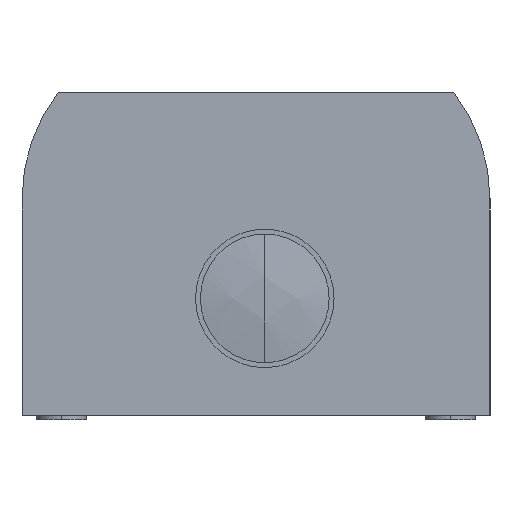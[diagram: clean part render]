
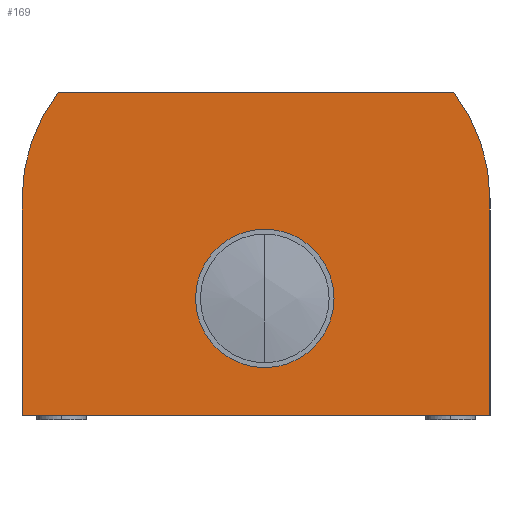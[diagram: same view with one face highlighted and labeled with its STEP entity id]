
A CAD part, left-side view. The second image highlights one B-rep face of the part: STEP entity #169.
In plain terms, the highlighted planar face has unit normal (-1, 0, 0).
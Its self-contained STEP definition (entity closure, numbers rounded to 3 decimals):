
#169 = ADVANCED_FACE( '', ( #384, #385 ), #386, .F. );
#384 = FACE_BOUND( '', #602, .T. );
#385 = FACE_OUTER_BOUND( '', #603, .T. );
#386 = PLANE( '', #604 );
#602 = EDGE_LOOP( '', ( #1298, #1299 ) );
#603 = EDGE_LOOP( '', ( #1300, #1301, #1302, #1303, #1304, #1305 ) );
#604 = AXIS2_PLACEMENT_3D( '', #1306, #1307, #1308 );
#1298 = ORIENTED_EDGE( '', *, *, #1499, .T. );
#1299 = ORIENTED_EDGE( '', *, *, #1340, .T. );
#1300 = ORIENTED_EDGE( '', *, *, #1514, .F. );
#1301 = ORIENTED_EDGE( '', *, *, #1530, .F. );
#1302 = ORIENTED_EDGE( '', *, *, #1527, .F. );
#1303 = ORIENTED_EDGE( '', *, *, #1524, .F. );
#1304 = ORIENTED_EDGE( '', *, *, #1521, .F. );
#1305 = ORIENTED_EDGE( '', *, *, #1518, .F. );
#1306 = CARTESIAN_POINT( '', ( -126., 0., 0. ) );
#1307 = DIRECTION( '', ( 1., 0., 0. ) );
#1308 = DIRECTION( '', ( 0., 0., -1. ) );
#1340 = EDGE_CURVE( '', #1567, #1571, #1573, .T. );
#1499 = EDGE_CURVE( '', #1571, #1567, #1838, .T. );
#1514 = EDGE_CURVE( '', #1858, #1859, #1860, .T. );
#1518 = EDGE_CURVE( '', #1859, #1866, #1867, .T. );
#1521 = EDGE_CURVE( '', #1866, #1871, #1872, .T. );
#1524 = EDGE_CURVE( '', #1871, #1876, #1877, .T. );
#1527 = EDGE_CURVE( '', #1876, #1881, #1882, .T. );
#1530 = EDGE_CURVE( '', #1881, #1858, #1886, .T. );
#1567 = VERTEX_POINT( '', #1929 );
#1571 = VERTEX_POINT( '', #1934 );
#1573 = CIRCLE( '', #1937, 11.839 );
#1838 = CIRCLE( '', #2288, 11.839 );
#1858 = VERTEX_POINT( '', #2308 );
#1859 = VERTEX_POINT( '', #2309 );
#1860 = CIRCLE( '', #2310, 30. );
#1866 = VERTEX_POINT( '', #2318 );
#1867 = LINE( '', #2319, #2320 );
#1871 = VERTEX_POINT( '', #2326 );
#1872 = LINE( '', #2327, #2328 );
#1876 = VERTEX_POINT( '', #2334 );
#1877 = LINE( '', #2335, #2336 );
#1881 = VERTEX_POINT( '', #2342 );
#1882 = CIRCLE( '', #2343, 30. );
#1886 = LINE( '', #2348, #2349 );
#1929 = CARTESIAN_POINT( '', ( -126., -13.335, -35.25 ) );
#1934 = CARTESIAN_POINT( '', ( -126., 10.343, -35.25 ) );
#1937 = AXIS2_PLACEMENT_3D( '', #2396, #2397, #2398 );
#2288 = AXIS2_PLACEMENT_3D( '', #2701, #2702, #2703 );
#2308 = CARTESIAN_POINT( '', ( -126., -33.81, 0. ) );
#2309 = CARTESIAN_POINT( '', ( -126., -40., -18.25 ) );
#2310 = AXIS2_PLACEMENT_3D( '', #2746, #2747, #2748 );
#2318 = CARTESIAN_POINT( '', ( -126., -40., -55.3 ) );
#2319 = CARTESIAN_POINT( '', ( -126., -40., -18.25 ) );
#2320 = VECTOR( '', #2754, 1. );
#2326 = CARTESIAN_POINT( '', ( -126., 40., -55.3 ) );
#2327 = CARTESIAN_POINT( '', ( -126., -40., -55.3 ) );
#2328 = VECTOR( '', #2757, 1. );
#2334 = CARTESIAN_POINT( '', ( -126., 40., -18.25 ) );
#2335 = CARTESIAN_POINT( '', ( -126., 40., -55.3 ) );
#2336 = VECTOR( '', #2760, 1. );
#2342 = CARTESIAN_POINT( '', ( -126., 33.81, 0. ) );
#2343 = AXIS2_PLACEMENT_3D( '', #2763, #2764, #2765 );
#2348 = CARTESIAN_POINT( '', ( -126., 33.81, 0. ) );
#2349 = VECTOR( '', #2770, 1. );
#2396 = CARTESIAN_POINT( '', ( -126., -1.496, -35.25 ) );
#2397 = DIRECTION( '', ( 1., 0., 0. ) );
#2398 = DIRECTION( '', ( 0., -1., 0. ) );
#2701 = CARTESIAN_POINT( '', ( -126., -1.496, -35.25 ) );
#2702 = DIRECTION( '', ( 1., 0., 0. ) );
#2703 = DIRECTION( '', ( 0., -1., 0. ) );
#2746 = CARTESIAN_POINT( '', ( -126., -10., -18.25 ) );
#2747 = DIRECTION( '', ( 1., 0., 0. ) );
#2748 = DIRECTION( '', ( 0., -0.794, 0.608 ) );
#2754 = DIRECTION( '', ( 0., 0., -1. ) );
#2757 = DIRECTION( '', ( 0., 1., 0. ) );
#2760 = DIRECTION( '', ( 0., 0., 1. ) );
#2763 = CARTESIAN_POINT( '', ( -126., 10., -18.25 ) );
#2764 = DIRECTION( '', ( 1., 0., 0. ) );
#2765 = DIRECTION( '', ( 0., 1., 0. ) );
#2770 = DIRECTION( '', ( 0., -1., 0. ) );
